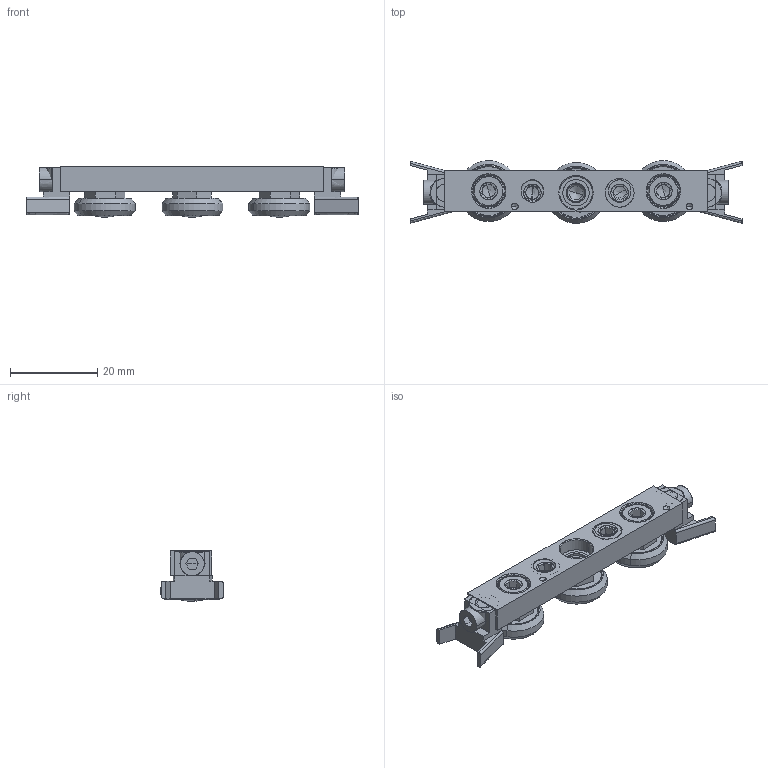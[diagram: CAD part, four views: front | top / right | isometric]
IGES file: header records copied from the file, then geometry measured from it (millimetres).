
Start section: SolidWorks IGES file using analytic representation for surfaces
Global section: file name: E:\J-00018 - L1918-L1963 LCompact Rail\L1918_v2\L1918.CSW18_v2\L1918.CSW18_IGES\L1918.CSW18-060-2ZU.igs; native system: SolidWorks 2017; preprocessor: SolidWorks 2017; author: liam_; date: 190629.230120; units: millimetre
Bounding box: 76 x 14.33 x 11.54 mm (x, y, z)
Surface area: 6500 mm2 (no closed solid volume)
Topology: 0 solids, 0 shells, 429 faces, 5200 edges, 5170 vertices
Faces by surface type: bspline 259, revolution 170
